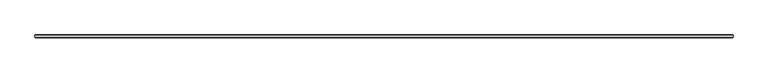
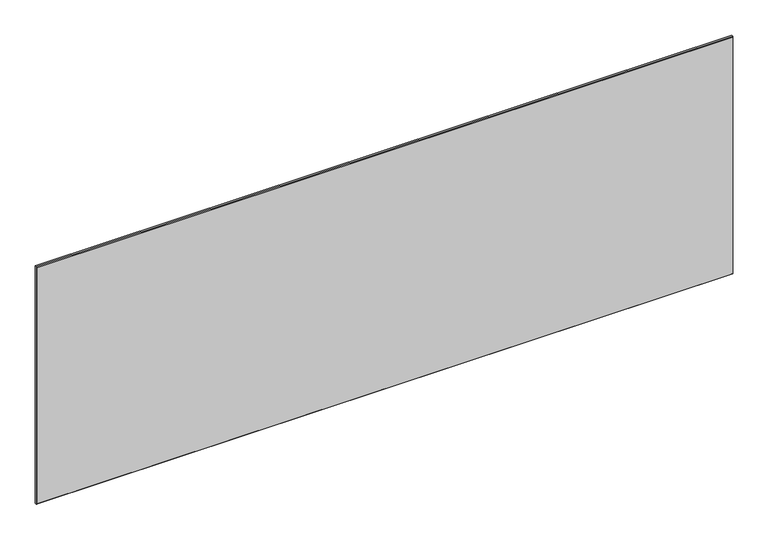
"""IFC4 building model written with IfcOpenShell, lengths in millimetres: plate geometry, 1-AMG-1-Панель одинарный витраж 8, 10 : Смещение 32 Толщина 8mm."""

from ifc_helpers import new_model, si_unit, origin, place, context, project, spatial, faceted_brep, source, transform, mapped, element, save


def plate_9d9821df(model_context):
    return source(origin(), model_context, "Body", "Brep", [
        faceted_brep([(908.9511719, 29.5038347, 647.9023438), (908.9511719, 34.4961653, 647.9023438), (-908.9511719, 34.4961653, 647.9023438), (-908.9511719, 29.5038347, 647.9023438), (908.9511719, 34.4961653, -7.0), (908.9511719, 29.5038347, -7.0), (-908.9511719, 29.5038347, -7.0), (-908.9511719, 34.4961653, -7.0), (-907.4473372, 36.0, 646.3985091), (907.4473372, 36.0, 646.3985091), (907.4473372, 36.0, -5.5039422), (-907.4473372, 36.0, -5.5039422), (907.4473372, 28.0, 646.3985091), (-907.4473372, 28.0, 646.3985091), (-907.4473372, 28.0, -5.4961653), (907.4473372, 28.0, -5.4961653)], [[[0, 1, 2, 3]], [[4, 5, 6, 7]], [[8, 9, 10, 11]], [[3, 2, 7, 6]], [[12, 13, 14, 15]], [[1, 0, 5, 4]], [[1, 4, 10, 9]], [[5, 0, 12, 15]], [[7, 2, 8, 11]], [[3, 6, 14, 13]], [[0, 3, 13, 12]], [[2, 1, 9, 8]], [[6, 5, 15, 14]], [[4, 7, 11, 10]]]),
    ])


if __name__ == "__main__":
    model = new_model("IFC4")
    model_context = context("Model", 3, world=origin())
    ifc_project = project(units=[si_unit("LENGTHUNIT", "METRE", prefix="MILLI")], contexts=[model_context])
    site = spatial("IfcSite", under=ifc_project)
    building = spatial("IfcBuilding", under=site)
    placement = place(None, origin())
    plate_shape = plate_9d9821df(model_context)
    element("IfcPlate", 1, ObjectType="1-AMG-1-Панель одинарный витраж 8, 10 : Смещение 32 Толщина 8mm", at=placement, inside=building, context=model_context, shape_type="MappedRepresentation", body=[
        mapped(plate_shape, transform((0.0, 0.0, 0.0), x_axis=(1.0, 0.0, 0.0), y_axis=(0.0, 1.0, 0.0), z_axis=(0.0, 0.0, 1.0))),
    ])
    save(model, "model.ifc")
